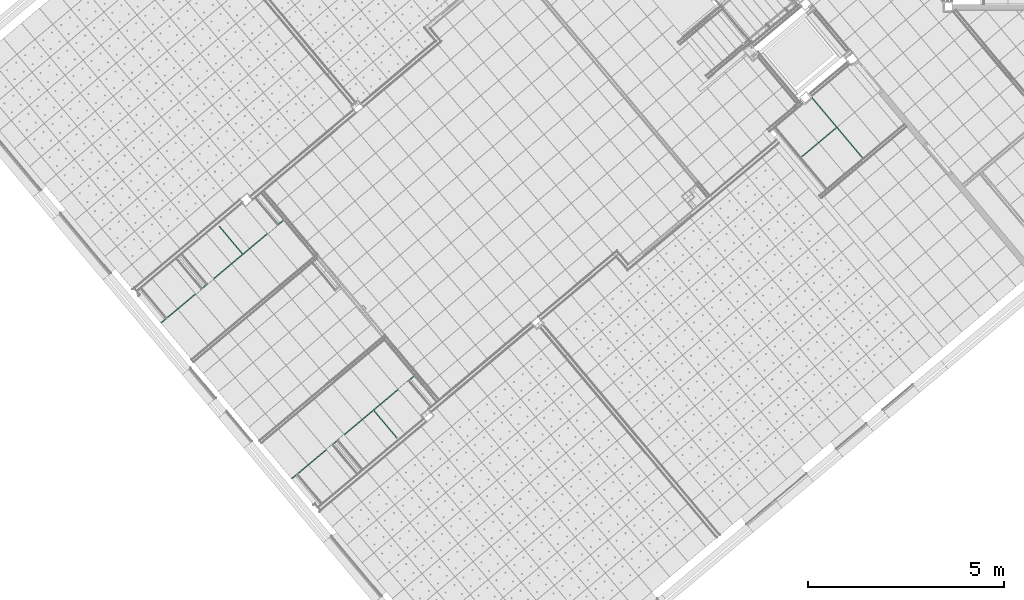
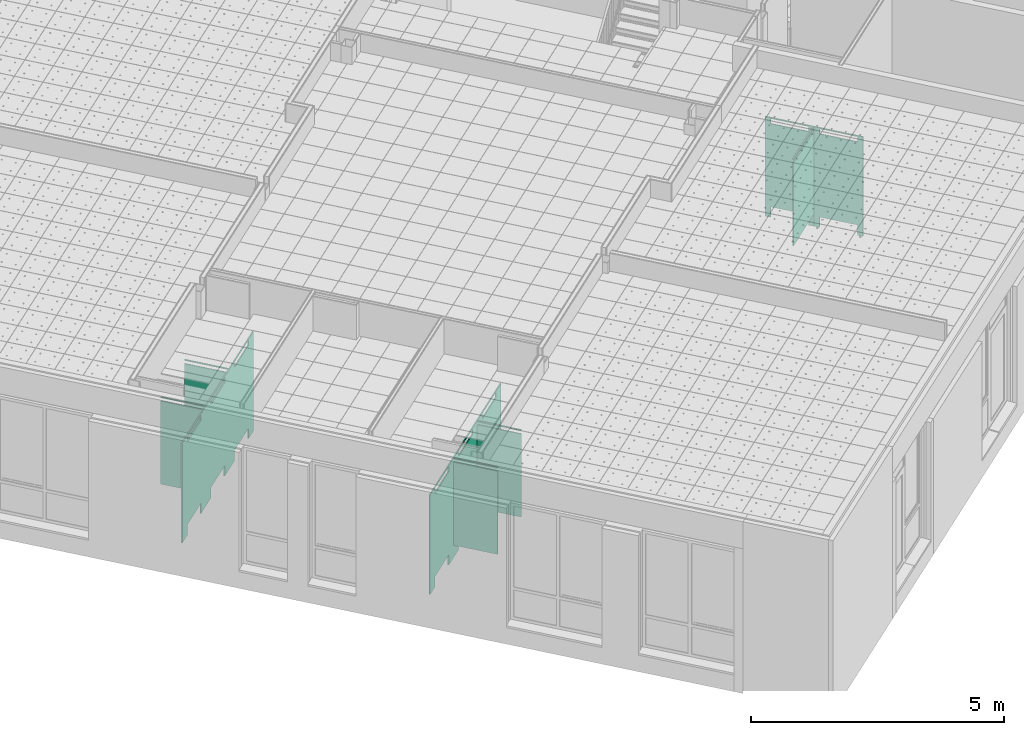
# One storey, part 122 of 338: 4 flow terminals.
"""IFC2X3 building model written with IfcOpenShell, lengths in millimetres."""

from ifc_helpers import new_model, entity, si_unit, converted_unit, derived_unit, money_unit, direction, frame, origin_with_axes, place, context, subcontext, project, spatial, open_shell, faceted_brep, surface_model, type_object, element, save


model = new_model("IFC2X3")

# Units and contexts
model_context = context("Model", 3, precision=0.01, world=origin_with_axes(), true_north=direction((0.0, 1.0)))
plan_context = context("Plan", 3, precision=0.01, world=origin_with_axes(), true_north=direction((0.0, 1.0)))
body_context = subcontext(model_context, "Body", "Model", "MODEL_VIEW")
ifc_project = project(units=[si_unit("LENGTHUNIT", "METRE", prefix="MILLI"), si_unit("AREAUNIT", "SQUARE_METRE"), si_unit("VOLUMEUNIT", "CUBIC_METRE"), converted_unit("PLANEANGLEUNIT", "DEGREE", entity("IfcPlaneAngleMeasure", 0.0174532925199), si_unit("PLANEANGLEUNIT", "RADIAN"), dimensions=[0, 0, 0, 0, 0, 0, 0]), money_unit("EUR"), converted_unit("TIMEUNIT", "Year", entity("IfcTimeMeasure", 31556926.0), si_unit("TIMEUNIT", "SECOND"), dimensions=[0, 0, 1, 0, 0, 0, 0]), si_unit("MASSUNIT", "GRAM", prefix="KILO"), si_unit("THERMODYNAMICTEMPERATUREUNIT", "DEGREE_CELSIUS"), si_unit("LUMINOUSINTENSITYUNIT", "LUMEN"), si_unit("ENERGYUNIT", "JOULE", prefix="MEGA"), derived_unit("THERMALCONDUCTANCEUNIT", [(si_unit("POWERUNIT", "WATT"), 1), (si_unit("LENGTHUNIT", "METRE"), -1), (si_unit("THERMODYNAMICTEMPERATUREUNIT", "KELVIN"), -1)]), derived_unit("SPECIFICHEATCAPACITYUNIT", [(si_unit("ENERGYUNIT", "JOULE"), 1), (si_unit("MASSUNIT", "GRAM", prefix="KILO"), -1), (si_unit("THERMODYNAMICTEMPERATUREUNIT", "KELVIN"), -1)]), derived_unit("MASSDENSITYUNIT", [(si_unit("MASSUNIT", "GRAM", prefix="KILO"), 1), (si_unit("VOLUMEUNIT", "CUBIC_METRE"), -1)])], contexts=[model_context, plan_context])

# Site, building, storey
site_placement = place(None, origin_with_axes())
site = spatial("IfcSite", under=ifc_project, at=site_placement, Name="Fortuinstraat Woensdrecht", CompositionType="ELEMENT")
building_placement = place(site_placement, origin_with_axes())
building = spatial("IfcBuilding", under=site, at=building_placement, Name="IKC Fortuna", CompositionType="ELEMENT")
storey_placement = place(building_placement, origin_with_axes())
storey = spatial("IfcBuildingStorey", under=building, at=storey_placement, Name="00 begane grond", CompositionType="ELEMENT", Elevation=0.0)

# Flow terminals
sanitary_terminal_type = type_object("IfcSanitaryTerminalType", Name="Sanitaire wanden 25", PredefinedType="NOTDEFINED")
flow_terminal_1_placement = place(storey_placement, frame((22135.0653935, -530.879682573, 0.0), z_axis=(0.0, 0.0, 1.0), x_axis=(-0.642787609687, 0.766044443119, 0.0)))
element("IfcFlowTerminal", 1, at=flow_terminal_1_placement, inside=storey, type_object=sanitary_terminal_type, Name="74_Sanitair toestel_toilet", ObjectType="Sanitary Terminal", context=body_context, shape_type="SurfaceModel", body=[
    faceted_brep([(0.0, 0.0, 0.0), (0.0, 0.0, 2375.0), (-114.459325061, 0.0, 2375.0), (-114.459325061, 0.0, 0.0), (0.0, 25.0, 0.0), (0.0, 25.0, 2375.0), (-114.459325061, 25.0, 2375.0), (-114.459325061, 25.0, 0.0)], [[[0, 1, 2, 3]], [[4, 5, 1, 0]], [[1, 5, 6, 2]], [[3, 2, 6, 7]], [[0, 3, 7, 4]], [[7, 6, 5, 4]]]),
    faceted_brep([(-914.459325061, 0.0, 0.0), (-914.459325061, 0.0, 2375.0), (-1028.91865012, 0.0, 2375.0), (-1028.91865012, 0.0, 0.0), (-914.459325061, 25.0, 0.0), (-914.459325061, 25.0, 2375.0), (-1028.91865012, 25.0, 2375.0), (-1028.91865012, 25.0, 0.0)], [[[0, 1, 2, 3]], [[4, 5, 1, 0]], [[1, 5, 6, 2]], [[3, 2, 6, 7]], [[0, 3, 7, 4]], [[7, 6, 5, 4]]]),
    surface_model("IfcShellBasedSurfaceModel", [(0.0, 0.0, 0.0), (-114.459325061, 0.0, 0.0), (-114.459325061, 25.0, 0.0), (0.0, 25.0, 0.0)], [open_shell([[[0, 1, 2, 3]]])]),
    surface_model("IfcShellBasedSurfaceModel", [(-914.459325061, 0.0, 0.0), (-1028.91865012, 0.0, 0.0), (-1028.91865012, 25.0, 0.0), (-914.459325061, 25.0, 0.0)], [open_shell([[[0, 1, 2, 3]]])]),
    faceted_brep([(-1028.91865012, 0.0, 2375.0), (-1028.91865012, 0.0, 2400.0), (-1028.91865012, 25.0, 2400.0), (-1028.91865012, 25.0, 2375.0), (0.0, 0.0, 2375.0), (0.0, 0.0, 2400.0), (0.0, 25.0, 2400.0), (0.0, 25.0, 2375.0)], [[[0, 1, 2, 3]], [[4, 5, 1, 0]], [[1, 5, 6, 2]], [[3, 2, 6, 7]], [[0, 3, 7, 4]], [[7, 6, 5, 4]]]),
    faceted_brep([(-114.459325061, 0.0, 250.0), (-114.459325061, 0.0, 2250.0), (-914.459325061, 0.0, 2250.0), (-914.459325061, 0.0, 250.0), (-114.459325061, 25.0, 250.0), (-114.459325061, 25.0, 2250.0), (-914.459325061, 25.0, 2250.0), (-914.459325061, 25.0, 250.0)], [[[0, 1, 2, 3]], [[4, 5, 1, 0]], [[1, 5, 6, 2]], [[3, 2, 6, 7]], [[0, 3, 7, 4]], [[7, 6, 5, 4]]]),
    faceted_brep([(-1028.91865012, 25.0, 300.0), (-1028.91865012, 25.0, 2300.0), (-1028.91865012, 1200.0, 2300.0), (-1028.91865012, 1200.0, 300.0), (-1003.91865012, 25.0, 300.0), (-1003.91865012, 25.0, 2300.0), (-1003.91865012, 1200.0, 2300.0), (-1003.91865012, 1200.0, 300.0)], [[[0, 1, 2, 3]], [[4, 5, 1, 0]], [[1, 5, 6, 2]], [[3, 2, 6, 7]], [[0, 3, 7, 4]], [[7, 6, 5, 4]]]),
    faceted_brep([(-1028.91865012, 25.0, 2375.0), (-1028.91865012, 25.0, 2400.0), (-1028.91865012, 1200.0, 2400.0), (-1028.91865012, 1200.0, 2375.0), (-1003.91865012, 25.0, 2375.0), (-1003.91865012, 25.0, 2400.0), (-1003.91865012, 1200.0, 2400.0), (-1003.91865012, 1200.0, 2375.0)], [[[0, 1, 2, 3]], [[4, 5, 1, 0]], [[1, 5, 6, 2]], [[3, 2, 6, 7]], [[0, 3, 7, 4]], [[7, 6, 5, 4]]]),
])
flow_terminal_2_placement = place(storey_placement, frame((5507.368654, -6330.06780512, 1450.0), z_axis=(0.0, 0.0, 1.0), x_axis=(0.766044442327, 0.642787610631, 0.0)))
element("IfcFlowTerminal", 2, at=flow_terminal_2_placement, inside=storey, type_object=sanitary_terminal_type, Name="74_Sanitair toestel_wc-schermen", ObjectType="Sanitary Terminal", context=body_context, shape_type="SurfaceModel", body=[
    faceted_brep([(0.0, 0.0, 0.0), (283.328634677, 0.0, 0.0), (283.328634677, 0.0, 2375.0), (0.0, 0.0, 2375.0), (0.0, 25.0, 0.0), (283.328634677, 25.0, 0.0), (283.328634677, 25.0, 2375.0), (0.0, 25.0, 2375.0)], [[[0, 1, 2, 3]], [[0, 4, 5, 1]], [[1, 5, 6, 2]], [[3, 2, 6, 7]], [[4, 0, 3, 7]], [[5, 4, 7, 6]]]),
    surface_model("IfcShellBasedSurfaceModel", [(1083.32863468, 0.0, 0.0), (1366.65726935, 0.0, 0.0), (1366.65726935, 0.0, 2375.0), (1083.32863468, 0.0, 2375.0), (1083.32863468, 25.0, 0.0), (1366.65726935, 25.0, 0.0), (1366.65726935, 25.0, 2375.0), (1083.32863468, 25.0, 2375.0)], [open_shell([[[0, 1, 2, 3]], [[0, 4, 5, 1]], [[3, 2, 6, 7]], [[4, 0, 3, 7]], [[5, 4, 7, 6]]])]),
    surface_model("IfcShellBasedSurfaceModel", [(0.0, 0.0, 0.0), (0.0, 25.0, 0.0), (283.328634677, 25.0, 0.0), (283.328634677, 0.0, 0.0)], [open_shell([[[0, 1, 2, 3]]])]),
    surface_model("IfcShellBasedSurfaceModel", [(1083.32863468, 0.0, 0.0), (1083.32863468, 25.0, 0.0), (1366.65726935, 25.0, 0.0), (1366.65726935, 0.0, 0.0)], [open_shell([[[0, 1, 2, 3]]])]),
    surface_model("IfcShellBasedSurfaceModel", [(1366.65726935, 25.0, 2375.0), (0.0, 25.0, 2375.0), (0.0, 25.0, 2400.0), (1366.65726935, 25.0, 2400.0), (1366.65726935, 0.0, 2375.0), (0.0, 0.0, 2375.0), (0.0, 0.0, 2400.0), (1366.65726935, 0.0, 2400.0)], [open_shell([[[0, 1, 2, 3]], [[4, 5, 1, 0]], [[1, 5, 6, 2]], [[7, 3, 2, 6]], [[5, 4, 7, 6]]])]),
    faceted_brep([(283.328634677, 0.0, 250.0), (1083.32863468, 0.0, 250.0), (1083.32863468, 0.0, 2250.0), (283.328634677, 0.0, 2250.0), (283.328634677, 25.0, 250.0), (1083.32863468, 25.0, 250.0), (1083.32863468, 25.0, 2250.0), (283.328634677, 25.0, 2250.0)], [[[0, 1, 2, 3]], [[0, 4, 5, 1]], [[1, 5, 6, 2]], [[3, 2, 6, 7]], [[4, 0, 3, 7]], [[5, 4, 7, 6]]]),
    surface_model("IfcShellBasedSurfaceModel", [(1366.65726935, 0.0, 0.0), (1649.98590403, 0.0, 0.0), (1649.98590403, 0.0, 2375.0), (1366.65726935, 0.0, 2375.0), (1366.65726935, 25.0, 0.0), (1649.98590403, 25.0, 0.0), (1649.98590403, 25.0, 2375.0), (1366.65726935, 25.0, 2375.0)], [open_shell([[[0, 1, 2, 3]], [[0, 4, 5, 1]], [[1, 5, 6, 2]], [[3, 2, 6, 7]], [[5, 4, 7, 6]]])]),
    surface_model("IfcShellBasedSurfaceModel", [(2449.98590403, 0.0, 0.0), (2733.31453871, 0.0, 0.0), (2733.31453871, 0.0, 2375.0), (2449.98590403, 0.0, 2375.0), (2449.98590403, 25.0, 0.0), (2733.31453871, 25.0, 0.0), (2733.31453871, 25.0, 2375.0), (2449.98590403, 25.0, 2375.0)], [open_shell([[[0, 1, 2, 3]], [[0, 4, 5, 1]], [[3, 2, 6, 7]], [[4, 0, 3, 7]], [[5, 4, 7, 6]]])]),
    surface_model("IfcShellBasedSurfaceModel", [(1366.65726935, 0.0, 0.0), (1366.65726935, 25.0, 0.0), (1649.98590403, 25.0, 0.0), (1649.98590403, 0.0, 0.0)], [open_shell([[[0, 1, 2, 3]]])]),
    surface_model("IfcShellBasedSurfaceModel", [(2449.98590403, 0.0, 0.0), (2449.98590403, 25.0, 0.0), (2733.31453871, 25.0, 0.0), (2733.31453871, 0.0, 0.0)], [open_shell([[[0, 1, 2, 3]]])]),
    surface_model("IfcShellBasedSurfaceModel", [(2733.31453871, 25.0, 2375.0), (1366.65726935, 25.0, 2375.0), (1366.65726935, 25.0, 2400.0), (2733.31453871, 25.0, 2400.0), (2733.31453871, 0.0, 2375.0), (1366.65726935, 0.0, 2375.0), (2733.31453871, 0.0, 2400.0), (1366.65726935, 0.0, 2400.0)], [open_shell([[[0, 1, 2, 3]], [[4, 5, 1, 0]], [[6, 3, 2, 7]], [[5, 4, 6, 7]]])]),
    faceted_brep([(1649.98590403, 0.0, 250.0), (2449.98590403, 0.0, 250.0), (2449.98590403, 0.0, 2250.0), (1649.98590403, 0.0, 2250.0), (1649.98590403, 25.0, 250.0), (2449.98590403, 25.0, 250.0), (2449.98590403, 25.0, 2250.0), (1649.98590403, 25.0, 2250.0)], [[[0, 1, 2, 3]], [[0, 4, 5, 1]], [[1, 5, 6, 2]], [[3, 2, 6, 7]], [[4, 0, 3, 7]], [[5, 4, 7, 6]]]),
    surface_model("IfcShellBasedSurfaceModel", [(2733.31453871, 0.0, 0.0), (3016.64317339, 0.0, 0.0), (3016.64317339, 0.0, 2375.0), (2733.31453871, 0.0, 2375.0), (2733.31453871, 25.0, 0.0), (3016.64317339, 25.0, 0.0), (3016.64317339, 25.0, 2375.0), (2733.31453871, 25.0, 2375.0)], [open_shell([[[0, 1, 2, 3]], [[0, 4, 5, 1]], [[1, 5, 6, 2]], [[3, 2, 6, 7]], [[5, 4, 7, 6]]])]),
    faceted_brep([(3816.64317339, 0.0, 0.0), (4099.97180806, 0.0, 0.0), (4099.97180806, 0.0, 2375.0), (3816.64317339, 0.0, 2375.0), (3816.64317339, 25.0, 0.0), (4099.97180806, 25.0, 0.0), (4099.97180806, 25.0, 2375.0), (3816.64317339, 25.0, 2375.0)], [[[0, 1, 2, 3]], [[0, 4, 5, 1]], [[1, 5, 6, 2]], [[3, 2, 6, 7]], [[4, 0, 3, 7]], [[5, 4, 7, 6]]]),
    surface_model("IfcShellBasedSurfaceModel", [(2733.31453871, 0.0, 0.0), (2733.31453871, 25.0, 0.0), (3016.64317339, 25.0, 0.0), (3016.64317339, 0.0, 0.0)], [open_shell([[[0, 1, 2, 3]]])]),
    surface_model("IfcShellBasedSurfaceModel", [(3816.64317339, 0.0, 0.0), (3816.64317339, 25.0, 0.0), (4099.97180806, 25.0, 0.0), (4099.97180806, 0.0, 0.0)], [open_shell([[[0, 1, 2, 3]]])]),
    surface_model("IfcShellBasedSurfaceModel", [(4099.97180806, 0.0, 2375.0), (4099.97180806, 25.0, 2375.0), (4099.97180806, 25.0, 2400.0), (4099.97180806, 0.0, 2400.0), (2733.31453871, 0.0, 2375.0), (2733.31453871, 25.0, 2375.0), (2733.31453871, 25.0, 2400.0), (2733.31453871, 0.0, 2400.0)], [open_shell([[[0, 1, 2, 3]], [[0, 4, 5, 1]], [[1, 5, 6, 2]], [[3, 2, 6, 7]], [[4, 0, 3, 7]]])]),
    faceted_brep([(3016.64317339, 0.0, 250.0), (3816.64317339, 0.0, 250.0), (3816.64317339, 0.0, 2250.0), (3016.64317339, 0.0, 2250.0), (3016.64317339, 25.0, 250.0), (3816.64317339, 25.0, 250.0), (3816.64317339, 25.0, 2250.0), (3016.64317339, 25.0, 2250.0)], [[[0, 1, 2, 3]], [[0, 4, 5, 1]], [[1, 5, 6, 2]], [[3, 2, 6, 7]], [[4, 0, 3, 7]], [[5, 4, 7, 6]]]),
    faceted_brep([(1379.15726935, 25.0, 300.0), (1379.15726935, 950.0, 300.0), (1379.15726935, 950.0, 2300.0), (1379.15726935, 25.0, 2300.0), (1354.15726935, 25.0, 300.0), (1354.15726935, 950.0, 300.0), (1354.15726935, 950.0, 2300.0), (1354.15726935, 25.0, 2300.0)], [[[0, 1, 2, 3]], [[0, 4, 5, 1]], [[1, 5, 6, 2]], [[3, 2, 6, 7]], [[4, 0, 3, 7]], [[5, 4, 7, 6]]]),
    faceted_brep([(1379.15726935, 25.0, 2375.0), (1379.15726935, 950.0, 2375.0), (1379.15726935, 950.0, 2400.0), (1379.15726935, 25.0, 2400.0), (1354.15726935, 25.0, 2375.0), (1354.15726935, 950.0, 2375.0), (1354.15726935, 950.0, 2400.0), (1354.15726935, 25.0, 2400.0)], [[[0, 1, 2, 3]], [[0, 4, 5, 1]], [[1, 5, 6, 2]], [[3, 2, 6, 7]], [[4, 0, 3, 7]], [[5, 4, 7, 6]]]),
    faceted_brep([(2745.81453871, 25.0, 300.0), (2745.81453871, 950.0, 300.0), (2745.81453871, 950.0, 2300.0), (2745.81453871, 25.0, 2300.0), (2720.81453871, 25.0, 300.0), (2720.81453871, 950.0, 300.0), (2720.81453871, 950.0, 2300.0), (2720.81453871, 25.0, 2300.0)], [[[0, 1, 2, 3]], [[0, 4, 5, 1]], [[1, 5, 6, 2]], [[3, 2, 6, 7]], [[4, 0, 3, 7]], [[5, 4, 7, 6]]]),
    faceted_brep([(2745.81453871, 25.0, 2375.0), (2745.81453871, 950.0, 2375.0), (2745.81453871, 950.0, 2400.0), (2745.81453871, 25.0, 2400.0), (2720.81453871, 25.0, 2375.0), (2720.81453871, 950.0, 2375.0), (2720.81453871, 950.0, 2400.0), (2720.81453871, 25.0, 2400.0)], [[[0, 1, 2, 3]], [[0, 4, 5, 1]], [[1, 5, 6, 2]], [[3, 2, 6, 7]], [[4, 0, 3, 7]], [[5, 4, 7, 6]]]),
])
flow_terminal_3_placement = place(storey_placement, frame((8833.67555252, -10294.2060015, 1450.0), z_axis=(0.0, 0.0, 1.0), x_axis=(-0.766044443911, -0.642787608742, 0.0)))
element("IfcFlowTerminal", 3, at=flow_terminal_3_placement, inside=storey, type_object=sanitary_terminal_type, Name="74_Sanitair toestel_wc-schermen", ObjectType="Sanitary Terminal", context=body_context, shape_type="SurfaceModel", body=[
    faceted_brep([(0.0, 0.0, 0.0), (0.0, 0.0, 2375.0), (-283.328634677, 0.0, 2375.0), (-283.328634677, 0.0, 0.0), (0.0, 25.0, 0.0), (0.0, 25.0, 2375.0), (-283.328634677, 25.0, 2375.0), (-283.328634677, 25.0, 0.0)], [[[0, 1, 2, 3]], [[4, 5, 1, 0]], [[1, 5, 6, 2]], [[3, 2, 6, 7]], [[0, 3, 7, 4]], [[7, 6, 5, 4]]]),
    surface_model("IfcShellBasedSurfaceModel", [(-1083.32863468, 0.0, 0.0), (-1083.32863468, 0.0, 2375.0), (-1366.65726935, 0.0, 2375.0), (-1366.65726935, 0.0, 0.0), (-1083.32863468, 25.0, 0.0), (-1083.32863468, 25.0, 2375.0), (-1366.65726935, 25.0, 2375.0), (-1366.65726935, 25.0, 0.0)], [open_shell([[[0, 1, 2, 3]], [[4, 5, 1, 0]], [[1, 5, 6, 2]], [[0, 3, 7, 4]], [[7, 6, 5, 4]]])]),
    surface_model("IfcShellBasedSurfaceModel", [(0.0, 0.0, 0.0), (-283.328634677, 0.0, 0.0), (-283.328634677, 25.0, 0.0), (0.0, 25.0, 0.0)], [open_shell([[[0, 1, 2, 3]]])]),
    surface_model("IfcShellBasedSurfaceModel", [(-1083.32863468, 0.0, 0.0), (-1366.65726935, 0.0, 0.0), (-1366.65726935, 25.0, 0.0), (-1083.32863468, 25.0, 0.0)], [open_shell([[[0, 1, 2, 3]]])]),
    surface_model("IfcShellBasedSurfaceModel", [(-1366.65726935, 25.0, 2375.0), (-1366.65726935, 25.0, 2400.0), (0.0, 25.0, 2400.0), (0.0, 25.0, 2375.0), (-1366.65726935, 0.0, 2400.0), (0.0, 0.0, 2400.0), (0.0, 0.0, 2375.0), (-1366.65726935, 0.0, 2375.0)], [open_shell([[[0, 1, 2, 3]], [[4, 5, 2, 1]], [[3, 2, 5, 6]], [[7, 0, 3, 6]], [[6, 5, 4, 7]]])]),
    faceted_brep([(-283.328634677, 0.0, 250.0), (-283.328634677, 0.0, 2250.0), (-1083.32863468, 0.0, 2250.0), (-1083.32863468, 0.0, 250.0), (-283.328634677, 25.0, 250.0), (-283.328634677, 25.0, 2250.0), (-1083.32863468, 25.0, 2250.0), (-1083.32863468, 25.0, 250.0)], [[[0, 1, 2, 3]], [[4, 5, 1, 0]], [[1, 5, 6, 2]], [[3, 2, 6, 7]], [[0, 3, 7, 4]], [[7, 6, 5, 4]]]),
    surface_model("IfcShellBasedSurfaceModel", [(-1366.65726935, 0.0, 0.0), (-1366.65726935, 0.0, 2375.0), (-1649.98590403, 0.0, 2375.0), (-1649.98590403, 0.0, 0.0), (-1366.65726935, 25.0, 2375.0), (-1649.98590403, 25.0, 2375.0), (-1649.98590403, 25.0, 0.0), (-1366.65726935, 25.0, 0.0)], [open_shell([[[0, 1, 2, 3]], [[1, 4, 5, 2]], [[3, 2, 5, 6]], [[0, 3, 6, 7]], [[6, 5, 4, 7]]])]),
    surface_model("IfcShellBasedSurfaceModel", [(-2449.98590403, 0.0, 0.0), (-2449.98590403, 0.0, 2375.0), (-2733.31453871, 0.0, 2375.0), (-2733.31453871, 0.0, 0.0), (-2449.98590403, 25.0, 0.0), (-2449.98590403, 25.0, 2375.0), (-2733.31453871, 25.0, 2375.0), (-2733.31453871, 25.0, 0.0)], [open_shell([[[0, 1, 2, 3]], [[4, 5, 1, 0]], [[1, 5, 6, 2]], [[0, 3, 7, 4]], [[7, 6, 5, 4]]])]),
    surface_model("IfcShellBasedSurfaceModel", [(-1366.65726935, 0.0, 0.0), (-1649.98590403, 0.0, 0.0), (-1649.98590403, 25.0, 0.0), (-1366.65726935, 25.0, 0.0)], [open_shell([[[0, 1, 2, 3]]])]),
    surface_model("IfcShellBasedSurfaceModel", [(-2449.98590403, 0.0, 0.0), (-2733.31453871, 0.0, 0.0), (-2733.31453871, 25.0, 0.0), (-2449.98590403, 25.0, 0.0)], [open_shell([[[0, 1, 2, 3]]])]),
    surface_model("IfcShellBasedSurfaceModel", [(-2733.31453871, 25.0, 2375.0), (-2733.31453871, 25.0, 2400.0), (-1366.65726935, 25.0, 2400.0), (-1366.65726935, 25.0, 2375.0), (-2733.31453871, 0.0, 2400.0), (-1366.65726935, 0.0, 2400.0), (-2733.31453871, 0.0, 2375.0), (-1366.65726935, 0.0, 2375.0)], [open_shell([[[0, 1, 2, 3]], [[4, 5, 2, 1]], [[6, 0, 3, 7]], [[7, 5, 4, 6]]])]),
    faceted_brep([(-1649.98590403, 0.0, 250.0), (-1649.98590403, 0.0, 2250.0), (-2449.98590403, 0.0, 2250.0), (-2449.98590403, 0.0, 250.0), (-1649.98590403, 25.0, 250.0), (-1649.98590403, 25.0, 2250.0), (-2449.98590403, 25.0, 2250.0), (-2449.98590403, 25.0, 250.0)], [[[0, 1, 2, 3]], [[4, 5, 1, 0]], [[1, 5, 6, 2]], [[3, 2, 6, 7]], [[0, 3, 7, 4]], [[7, 6, 5, 4]]]),
    surface_model("IfcShellBasedSurfaceModel", [(-2733.31453871, 0.0, 0.0), (-2733.31453871, 0.0, 2375.0), (-3016.64317339, 0.0, 2375.0), (-3016.64317339, 0.0, 0.0), (-2733.31453871, 25.0, 2375.0), (-3016.64317339, 25.0, 2375.0), (-3016.64317339, 25.0, 0.0), (-2733.31453871, 25.0, 0.0)], [open_shell([[[0, 1, 2, 3]], [[1, 4, 5, 2]], [[3, 2, 5, 6]], [[0, 3, 6, 7]], [[6, 5, 4, 7]]])]),
    faceted_brep([(-3816.64317339, 0.0, 0.0), (-3816.64317339, 0.0, 2375.0), (-4099.97180806, 0.0, 2375.0), (-4099.97180806, 0.0, 0.0), (-3816.64317339, 25.0, 0.0), (-3816.64317339, 25.0, 2375.0), (-4099.97180806, 25.0, 2375.0), (-4099.97180806, 25.0, 0.0)], [[[0, 1, 2, 3]], [[4, 5, 1, 0]], [[1, 5, 6, 2]], [[3, 2, 6, 7]], [[0, 3, 7, 4]], [[7, 6, 5, 4]]]),
    surface_model("IfcShellBasedSurfaceModel", [(-2733.31453871, 0.0, 0.0), (-3016.64317339, 0.0, 0.0), (-3016.64317339, 25.0, 0.0), (-2733.31453871, 25.0, 0.0)], [open_shell([[[0, 1, 2, 3]]])]),
    surface_model("IfcShellBasedSurfaceModel", [(-3816.64317339, 0.0, 0.0), (-4099.97180806, 0.0, 0.0), (-4099.97180806, 25.0, 0.0), (-3816.64317339, 25.0, 0.0)], [open_shell([[[0, 1, 2, 3]]])]),
    surface_model("IfcShellBasedSurfaceModel", [(-4099.97180806, 0.0, 2375.0), (-4099.97180806, 0.0, 2400.0), (-4099.97180806, 25.0, 2400.0), (-4099.97180806, 25.0, 2375.0), (-2733.31453871, 0.0, 2375.0), (-2733.31453871, 0.0, 2400.0), (-2733.31453871, 25.0, 2400.0), (-2733.31453871, 25.0, 2375.0)], [open_shell([[[0, 1, 2, 3]], [[4, 5, 1, 0]], [[1, 5, 6, 2]], [[3, 2, 6, 7]], [[0, 3, 7, 4]]])]),
    faceted_brep([(-3016.64317339, 0.0, 250.0), (-3016.64317339, 0.0, 2250.0), (-3816.64317339, 0.0, 2250.0), (-3816.64317339, 0.0, 250.0), (-3016.64317339, 25.0, 250.0), (-3016.64317339, 25.0, 2250.0), (-3816.64317339, 25.0, 2250.0), (-3816.64317339, 25.0, 250.0)], [[[0, 1, 2, 3]], [[4, 5, 1, 0]], [[1, 5, 6, 2]], [[3, 2, 6, 7]], [[0, 3, 7, 4]], [[7, 6, 5, 4]]]),
    faceted_brep([(-1379.15726935, 25.0, 300.0), (-1379.15726935, 25.0, 2300.0), (-1379.15726935, 950.0, 2300.0), (-1379.15726935, 950.0, 300.0), (-1354.15726935, 25.0, 300.0), (-1354.15726935, 25.0, 2300.0), (-1354.15726935, 950.0, 2300.0), (-1354.15726935, 950.0, 300.0)], [[[0, 1, 2, 3]], [[4, 5, 1, 0]], [[1, 5, 6, 2]], [[3, 2, 6, 7]], [[0, 3, 7, 4]], [[7, 6, 5, 4]]]),
    faceted_brep([(-1379.15726935, 25.0, 2375.0), (-1379.15726935, 25.0, 2400.0), (-1379.15726935, 950.0, 2400.0), (-1379.15726935, 950.0, 2375.0), (-1354.15726935, 25.0, 2375.0), (-1354.15726935, 25.0, 2400.0), (-1354.15726935, 950.0, 2400.0), (-1354.15726935, 950.0, 2375.0)], [[[0, 1, 2, 3]], [[4, 5, 1, 0]], [[1, 5, 6, 2]], [[3, 2, 6, 7]], [[0, 3, 7, 4]], [[7, 6, 5, 4]]]),
    faceted_brep([(-2745.81453871, 25.0, 300.0), (-2745.81453871, 25.0, 2300.0), (-2745.81453871, 950.0, 2300.0), (-2745.81453871, 950.0, 300.0), (-2720.81453871, 25.0, 300.0), (-2720.81453871, 25.0, 2300.0), (-2720.81453871, 950.0, 2300.0), (-2720.81453871, 950.0, 300.0)], [[[0, 1, 2, 3]], [[4, 5, 1, 0]], [[1, 5, 6, 2]], [[3, 2, 6, 7]], [[0, 3, 7, 4]], [[7, 6, 5, 4]]]),
    faceted_brep([(-2745.81453871, 25.0, 2375.0), (-2745.81453871, 25.0, 2400.0), (-2745.81453871, 950.0, 2400.0), (-2745.81453871, 950.0, 2375.0), (-2720.81453871, 25.0, 2375.0), (-2720.81453871, 25.0, 2400.0), (-2720.81453871, 950.0, 2400.0), (-2720.81453871, 950.0, 2375.0)], [[[0, 1, 2, 3]], [[4, 5, 1, 0]], [[1, 5, 6, 2]], [[3, 2, 6, 7]], [[0, 3, 7, 4]], [[7, 6, 5, 4]]]),
])
flow_terminal_4_placement = place(storey_placement, frame((23457.8177128, -2107.27451127, 0.0), z_axis=(0.0, 0.0, 1.0), x_axis=(-0.642787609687, 0.766044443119, 0.0)))
element("IfcFlowTerminal", 4, at=flow_terminal_4_placement, inside=storey, type_object=sanitary_terminal_type, Name="74_Sanitair toestel_toilet", ObjectType="Sanitary Terminal", context=body_context, shape_type="SurfaceModel", body=[
    faceted_brep([(0.0, 0.0, 0.0), (114.459325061, 0.0, 0.0), (114.459325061, 0.0, 2375.0), (0.0, 0.0, 2375.0), (0.0, 25.0, 0.0), (114.459325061, 25.0, 0.0), (114.459325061, 25.0, 2375.0), (0.0, 25.0, 2375.0)], [[[0, 1, 2, 3]], [[0, 4, 5, 1]], [[1, 5, 6, 2]], [[3, 2, 6, 7]], [[4, 0, 3, 7]], [[5, 4, 7, 6]]]),
    faceted_brep([(914.459325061, 0.0, 0.0), (1028.91865012, 0.0, 0.0), (1028.91865012, 0.0, 2375.0), (914.459325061, 0.0, 2375.0), (914.459325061, 25.0, 0.0), (1028.91865012, 25.0, 0.0), (1028.91865012, 25.0, 2375.0), (914.459325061, 25.0, 2375.0)], [[[0, 1, 2, 3]], [[0, 4, 5, 1]], [[1, 5, 6, 2]], [[3, 2, 6, 7]], [[4, 0, 3, 7]], [[5, 4, 7, 6]]]),
    surface_model("IfcShellBasedSurfaceModel", [(0.0, 0.0, 0.0), (0.0, 25.0, 0.0), (114.459325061, 25.0, 0.0), (114.459325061, 0.0, 0.0)], [open_shell([[[0, 1, 2, 3]]])]),
    surface_model("IfcShellBasedSurfaceModel", [(914.459325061, 0.0, 0.0), (914.459325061, 25.0, 0.0), (1028.91865012, 25.0, 0.0), (1028.91865012, 0.0, 0.0)], [open_shell([[[0, 1, 2, 3]]])]),
    faceted_brep([(1028.91865012, 0.0, 2375.0), (1028.91865012, 25.0, 2375.0), (1028.91865012, 25.0, 2400.0), (1028.91865012, 0.0, 2400.0), (0.0, 0.0, 2375.0), (0.0, 25.0, 2375.0), (0.0, 25.0, 2400.0), (0.0, 0.0, 2400.0)], [[[0, 1, 2, 3]], [[0, 4, 5, 1]], [[1, 5, 6, 2]], [[3, 2, 6, 7]], [[4, 0, 3, 7]], [[5, 4, 7, 6]]]),
    faceted_brep([(114.459325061, 0.0, 250.0), (914.459325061, 0.0, 250.0), (914.459325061, 0.0, 2250.0), (114.459325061, 0.0, 2250.0), (114.459325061, 25.0, 250.0), (914.459325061, 25.0, 250.0), (914.459325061, 25.0, 2250.0), (114.459325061, 25.0, 2250.0)], [[[0, 1, 2, 3]], [[0, 4, 5, 1]], [[1, 5, 6, 2]], [[3, 2, 6, 7]], [[4, 0, 3, 7]], [[5, 4, 7, 6]]]),
])

save(model, "model.ifc")
